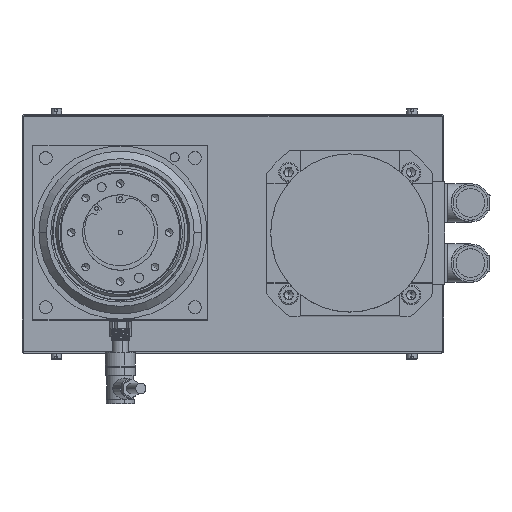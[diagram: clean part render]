
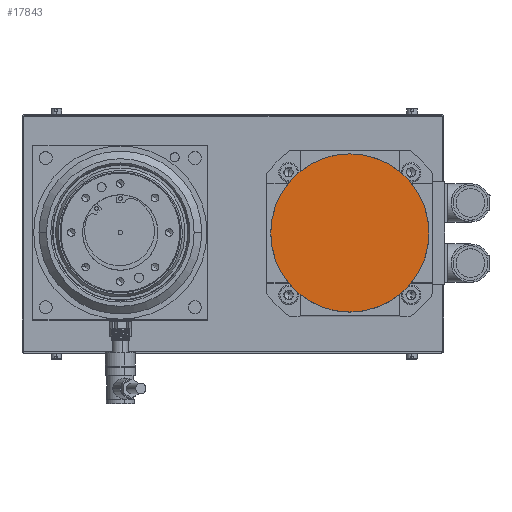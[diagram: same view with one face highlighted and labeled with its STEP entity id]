
A CAD part, top view. The second image highlights one B-rep face of the part: STEP entity #17843.
In plain terms, the highlighted planar face has unit normal (0, 0, 1).
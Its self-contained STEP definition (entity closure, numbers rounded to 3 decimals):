
#129 = DIRECTION ( 'NONE',  ( 0., 0., 1. ) ) ;
#2708 = CARTESIAN_POINT ( 'NONE',  ( 151.304, -2.989, -170.5 ) ) ;
#2957 = DIRECTION ( 'NONE',  ( 1., 0., 0. ) ) ;
#5627 = CARTESIAN_POINT ( 'NONE',  ( 203.804, -2.99, -170.5 ) ) ;
#5775 = AXIS2_PLACEMENT_3D ( 'NONE', #13751, #129, #21955 ) ;
#6437 = FACE_OUTER_BOUND ( 'NONE', #6649, .T. ) ;
#6649 = EDGE_LOOP ( 'NONE', ( #12861, #33078 ) ) ;
#7333 = VERTEX_POINT ( 'NONE', #8571 ) ;
#8345 = PLANE ( 'NONE',  #29672 ) ;
#8571 = CARTESIAN_POINT ( 'NONE',  ( 98.804, -2.988, -170.5 ) ) ;
#12861 = ORIENTED_EDGE ( 'NONE', *, *, #15685, .T. ) ;
#13161 = CIRCLE ( 'NONE', #28094, 52.5 ) ;
#13751 = CARTESIAN_POINT ( 'NONE',  ( 151.304, -2.989, -170.5 ) ) ;
#15685 = EDGE_CURVE ( 'NONE', #19704, #7333, #23689, .T. ) ;
#15846 = DIRECTION ( 'NONE',  ( -1., 0., 0. ) ) ;
#16935 = DIRECTION ( 'NONE',  ( 0., 0., 1. ) ) ;
#17843 = ADVANCED_FACE ( 'NONE', ( #6437 ), #8345, .F. ) ;
#19704 = VERTEX_POINT ( 'NONE', #5627 ) ;
#21955 = DIRECTION ( 'NONE',  ( 1., 0., 0. ) ) ;
#23689 = CIRCLE ( 'NONE', #5775, 52.5 ) ;
#28094 = AXIS2_PLACEMENT_3D ( 'NONE', #2708, #16935, #2957 ) ;
#28425 = EDGE_CURVE ( 'NONE', #7333, #19704, #13161, .T. ) ;
#29672 = AXIS2_PLACEMENT_3D ( 'NONE', #30344, #32409, #15846 ) ;
#30344 = CARTESIAN_POINT ( 'NONE',  ( 96.303, -57.988, -170.5 ) ) ;
#32409 = DIRECTION ( 'NONE',  ( 0., 0., -1. ) ) ;
#33078 = ORIENTED_EDGE ( 'NONE', *, *, #28425, .T. ) ;
